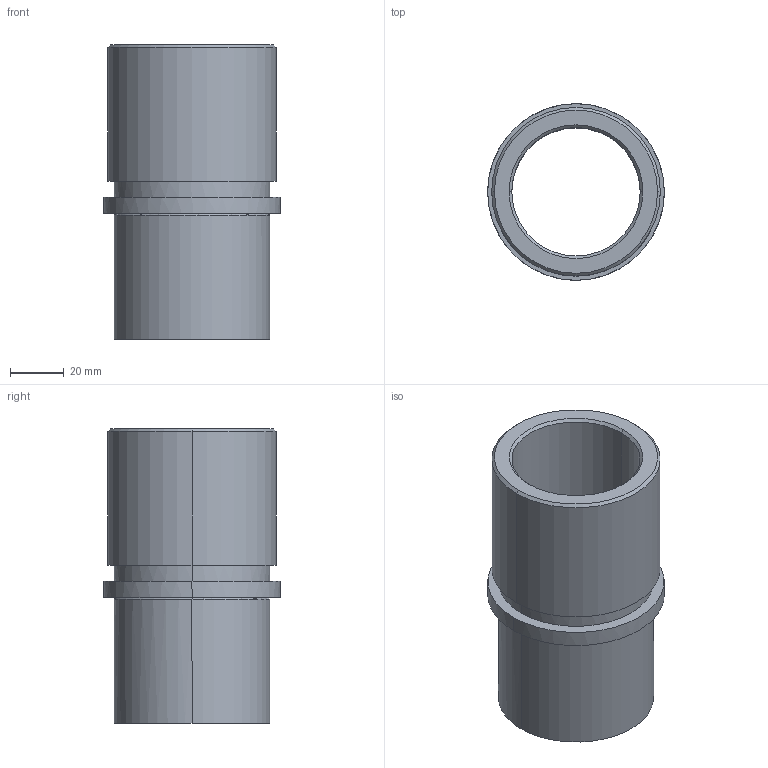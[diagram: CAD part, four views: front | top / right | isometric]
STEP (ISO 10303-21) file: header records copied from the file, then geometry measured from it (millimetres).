
FILE_DESCRIPTION(('CATIA V5 STEP Exchange'),'2;1');
FILE_NAME('C:\Users\Utente\Desktop\IO LAVORO\3D X SITO CF\X SITO\734\734-40.stp','2021-01-16T19:01:42+00:00',('none'),('none'),'CATIA Version 5 Release 20 GA (IN-10)','CATIA V5 STEP AP203','none');
FILE_SCHEMA(('CONFIG_CONTROL_DESIGN'));
Length unit declared in the file: millimetre
Products named in the file (1): 734-40
Assembly tree (1 placements, depth 2):
  734-40
    #58
Bounding box: 66 x 66 x 110 mm (x, y, z)
Volume: 120080.7 mm3; surface area: 41758.3 mm2
Topology: 1 solids, 1 shells, 25 faces, 50 edges, 30 vertices
Faces by surface type: cylinder 10, cone 6, plane 5, torus 4
Entity records: 851 total; most frequent: CARTESIAN_POINT 282, ORIENTED_EDGE 100, DIRECTION 96, AXIS2_PLACEMENT_3D 53, EDGE_CURVE 50, EDGE_LOOP 30, VERTEX_POINT 30, CIRCLE 26
